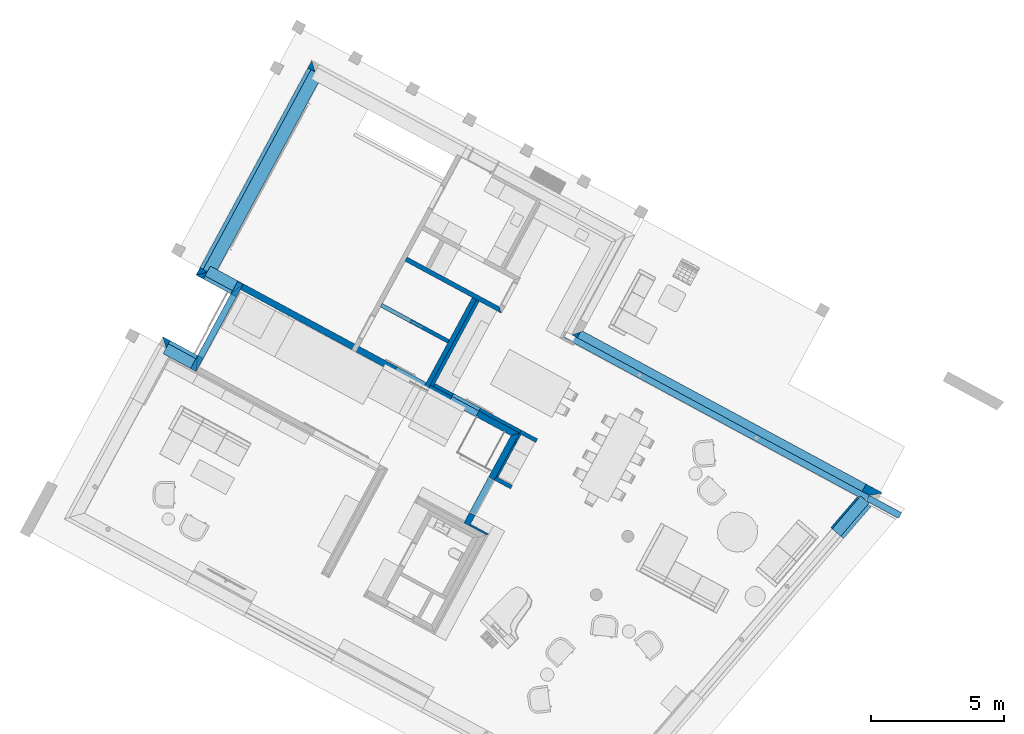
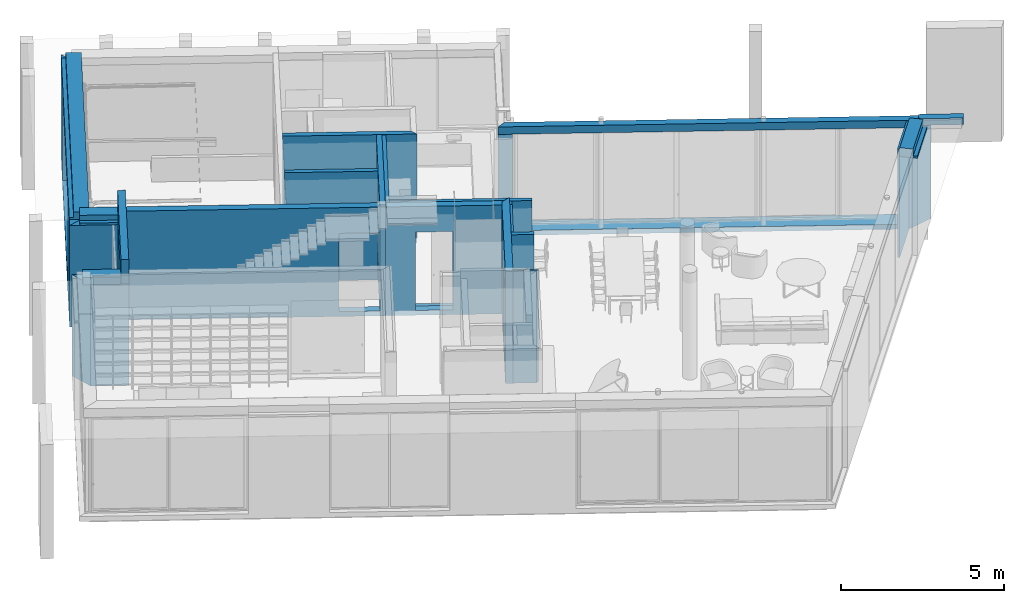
# One storey, part 3 of 36: 25 walls, 8 openings.
"""IFC2X3 building model written with IfcOpenShell, lengths in metres."""

from ifc_helpers import new_model, entity, si_unit, converted_unit, derived_unit, money_unit, direction, frame, frame_2d, origin_with_axes, origin_2d_with_axis, place, context, subcontext, project, spatial, polyline, rectangle, outline, composite_profile, extrude, faceted_brep, material, material_list, layer, layer_set, layer_usage, type_object, element, save


model = new_model("IFC2X3")

# Units and contexts
model_context = context("Model", 3, precision=1e-05, world=origin_with_axes(), true_north=direction((0.0, 1.0)))
body_context = subcontext(model_context, "Body", "Model", "MODEL_VIEW")
ifc_project = project(units=[si_unit("LENGTHUNIT", "METRE"), si_unit("AREAUNIT", "SQUARE_METRE"), si_unit("VOLUMEUNIT", "CUBIC_METRE"), converted_unit("PLANEANGLEUNIT", "DEGREE", entity("IfcPlaneAngleMeasure", 0.0174532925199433), si_unit("PLANEANGLEUNIT", "RADIAN"), dimensions=[0, 0, 0, 0, 0, 0, 0]), money_unit("EUR"), converted_unit("TIMEUNIT", "Year", entity("IfcTimeMeasure", 31556926.0), si_unit("TIMEUNIT", "SECOND"), dimensions=[0, 0, 1, 0, 0, 0, 0]), si_unit("MASSUNIT", "GRAM", prefix="KILO"), si_unit("THERMODYNAMICTEMPERATUREUNIT", "DEGREE_CELSIUS"), si_unit("LUMINOUSINTENSITYUNIT", "LUMEN"), si_unit("ENERGYUNIT", "JOULE", prefix="MEGA"), derived_unit("THERMALCONDUCTANCEUNIT", [(si_unit("POWERUNIT", "WATT"), 1), (si_unit("LENGTHUNIT", "METRE"), -1), (si_unit("THERMODYNAMICTEMPERATUREUNIT", "KELVIN"), -1)]), derived_unit("SPECIFICHEATCAPACITYUNIT", [(si_unit("ENERGYUNIT", "JOULE"), 1), (si_unit("MASSUNIT", "GRAM", prefix="KILO"), -1), (si_unit("THERMODYNAMICTEMPERATUREUNIT", "KELVIN"), -1)]), derived_unit("MASSDENSITYUNIT", [(si_unit("MASSUNIT", "GRAM", prefix="KILO"), 1), (si_unit("VOLUMEUNIT", "CUBIC_METRE"), -1)])], contexts=[model_context])

# Site, building, storey
site_placement = place(None, frame((-3.949935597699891, 1.740105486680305, 0.0), z_axis=(0.0, 0.0, 1.0), x_axis=(0.8799804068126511, -0.475009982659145, 0.0)))
site = spatial("IfcSite", under=ifc_project, at=site_placement, Name="Gelände", CompositionType="ELEMENT")
building_placement = place(site_placement, origin_with_axes())
building = spatial("IfcBuilding", under=site, at=building_placement, Name="Gebäude", CompositionType="ELEMENT")
storey_placement = place(building_placement, origin_with_axes())
storey = spatial("IfcBuildingStorey", under=building, at=storey_placement, Name="Erdgeschoss", CompositionType="ELEMENT", Elevation=0.0)

# Walls
ifc_material_1 = material(Name="_SIWH - MW Kalksandstein")
ifc_layer_1 = layer(ifc_material_1, 0.175, ventilated="UNKNOWN")
ifc_layer_set_1 = layer_set([ifc_layer_1], Name="_SIWH - WI | KS 17,5 | 17,5cm")
ifc_layer_usage_1 = layer_usage(ifc_layer_set_1, "AXIS2", "NEGATIVE", 0.0)
wall_type_1 = type_object("IfcWallType", Name="_SIWH - WI | KS 17,5 | 17,5cm 175", PredefinedType="NOTDEFINED")
wall_1_placement = place(storey_placement, frame((13.59247159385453, 14.53810341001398, -0.18), z_axis=(0.0, 0.0, 1.0), x_axis=(4.437408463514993e-06, -0.9999999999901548, 0.0)))
element("IfcWallStandardCase", 1, at=wall_1_placement, inside=storey, type_object=wall_type_1, material=ifc_layer_usage_1, Name="I-Wand029", ObjectType="NOTDEFINED", context=body_context, shape_type="SweptSolid", body=[
    extrude(outline(polyline([(0.0, -0.1750000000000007), (3.880302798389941, -0.1750000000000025), (3.880302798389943, 0.0), (0.0, 0.0), (0.0, -0.1750000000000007)])), origin_with_axes(), (0.0, 0.0, 1.0), 4.080000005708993),
])
ifc_layer_usage_2 = layer_usage(ifc_layer_set_1, "AXIS2", "POSITIVE", 0.0)
wall_2_placement = place(storey_placement, frame((10.53741421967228, 14.53808985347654, -0.18), z_axis=(0.0, 0.0, 1.0), x_axis=(0.9999999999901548, 4.437408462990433e-06, 0.0)))
element("IfcWallStandardCase", 2, at=wall_2_placement, inside=storey, type_object=wall_type_1, material=ifc_layer_usage_2, Name="I-Wand030", ObjectType="NOTDEFINED", context=body_context, shape_type="SweptSolid", body=[
    extrude(outline(polyline([(0.0, 0.0), (4.125546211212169, 0.0), (3.950546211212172, 0.1750000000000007), (5.735271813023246e-09, 0.1750000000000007), (0.0, 0.0)])), origin_with_axes(), (0.0, 0.0, 1.0), 4.080000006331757),
])
ifc_material_2 = material(Name="_SIWH - Beton, Stahlbeton")
ifc_layer_2 = layer(ifc_material_2, 0.24, ventilated="UNKNOWN")
ifc_layer_set_2 = layer_set([ifc_layer_2], Name="_SIWH - Beton, Stahlbeton 0.24")
ifc_layer_usage_3 = layer_usage(ifc_layer_set_2, "AXIS2", "NEGATIVE", 0.24)
wall_type_2 = type_object("IfcWallType", Name="_SIWH - Beton, Stahlbeton 240", PredefinedType="NOTDEFINED")
wall_3_placement = place(storey_placement, frame((30.10699423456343, 15.08304610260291, 3.620000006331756), z_axis=(0.0, 0.0, 1.0), x_axis=(-1.0, 0.0, 0.0)))
element("IfcWallStandardCase", 3, at=wall_3_placement, inside=storey, type_object=wall_type_2, material=ifc_layer_usage_3, Name="A-Wand052", ObjectType="NOTDEFINED", context=body_context, shape_type="SweptSolid", body=[
    extrude(outline(polyline([(0.0, 0.0), (12.73951727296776, 0.0), (12.93951727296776, 0.2400000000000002), (0.0, 0.2400000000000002), (0.0, 0.0)])), origin_with_axes(), (0.0, 0.0, 1.0), 0.28),
])
ifc_layer_usage_4 = layer_usage(ifc_layer_set_2, "AXIS2", "NEGATIVE", 0.24)
wall_4_placement = place(storey_placement, frame((31.48370260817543, 15.08304611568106, 3.7), z_axis=(0.0, 0.0, 1.0), x_axis=(-1.0, 0.0, 0.0)))
element("IfcWallStandardCase", 4, at=wall_4_placement, inside=storey, type_object=wall_type_2, material=ifc_layer_usage_4, Name="A-Wand053", ObjectType="NOTDEFINED", context=body_context, shape_type="SweptSolid", body=[
    extrude(outline(polyline([(0.0, 0.0), (1.376707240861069, 0.0), (1.376707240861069, 0.2400000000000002), (0.0, 0.2400000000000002), (0.0, 0.0)])), origin_with_axes(), (0.0, 0.0, 1.0), 0.25),
])

# Wall, opening
ifc_material_3 = material(Name="_SIWH - MW Vormauerziegel")
ifc_layer_3 = layer(ifc_material_3, 0.115, ventilated="UNKNOWN")
ifc_material_4 = material(Name="_SIWH - Luftschicht vertikal")
ifc_layer_4 = layer(ifc_material_4, 0.02, ventilated="UNKNOWN")
ifc_material_5 = material(Name="_SIWH - Dämmung, weich Mineralwolle")
ifc_layer_5 = layer(ifc_material_5, 0.18, ventilated="UNKNOWN")
ifc_layer_6 = layer(ifc_material_2, 0.24, ventilated="UNKNOWN")
ifc_layer_set_3 = layer_set([ifc_layer_3, ifc_layer_4, ifc_layer_5, ifc_layer_6], Name="_SIWH - WA | Stb. 24+WD 18+LS 2+Verblender 11,5 | 55,5cm")
ifc_layer_usage_5 = layer_usage(ifc_layer_set_3, "AXIS2", "POSITIVE", -0.315)
wall_type_3 = type_object("IfcWallType", Name="_SIWH - WA | Stb. 24+WD 18+LS 2+Verblender 11,5 | 55,5cm 555", PredefinedType="NOTDEFINED")
wall_5_placement = place(storey_placement, frame((30.10699655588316, 15.0830461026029, -0.1800000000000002), z_axis=(0.0, 0.0, 1.0), x_axis=(-1.0, 0.0, 0.0)))
wall_5 = element("IfcWallStandardCase", 5, at=wall_5_placement, inside=storey, type_object=wall_type_3, material=ifc_layer_usage_5, Name="A-Wand042", ObjectType="NOTDEFINED", context=body_context, shape_type="SweptSolid", body=[
    extrude(outline(polyline([(-0.3912241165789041, -0.3149999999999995), (12.42450377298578, -0.3149999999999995), (12.93950132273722, 0.2400000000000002), (0.2980755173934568, 0.2400000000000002), (-0.3912241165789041, -0.3149999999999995)])), origin_with_axes(), (0.0, 0.0, 1.0), 3.799999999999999),
])
opening_1_placement = place(wall_5_placement, frame((6.405607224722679, 0.0, 0.1800000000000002), z_axis=(0.0, 0.0, 1.0), x_axis=(1.0, 0.0, 0.0)))
element("IfcOpeningElement", 6, at=opening_1_placement, cuts=wall_5, Name="Fenster-014", context=body_context, shape_type="Brep", body=[
    faceted_brep([(6.088902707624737, 0.1250000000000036, 3.620000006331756), (-6.088902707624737, 0.1250000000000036, 3.620000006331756), (-6.088902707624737, -0.3160000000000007, 3.620000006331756), (6.017968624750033, -0.3159999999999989, 3.620000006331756), (6.088902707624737, -0.2395561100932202, 3.620000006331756), (6.088902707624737, 0.2410000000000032, 3.620000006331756), (-6.088902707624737, 0.2410000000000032, 3.620000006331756), (-6.088902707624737, 0.1250000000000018, 0.0), (-6.088902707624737, -0.3160000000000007, 0.0), (6.017968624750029, -0.3160000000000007, 0.0), (6.088902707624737, -0.2395561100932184, 0.0), (6.088902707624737, 0.1250000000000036, 0.0), (6.088902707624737, 0.2410000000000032, 0.0), (-6.088902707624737, 0.2410000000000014, 0.0)], [[[0, 1, 2, 3, 4]], [[1, 0, 5, 6]], [[1, 7, 8, 2]], [[2, 8, 9, 3]], [[3, 9, 10, 4]], [[11, 0, 4, 10]], [[0, 11, 12, 5]], [[5, 12, 13, 6]], [[7, 1, 6, 13]], [[7, 11, 10, 9, 8]], [[11, 7, 13, 12]]]),
])

# Walls
ifc_layer_usage_6 = layer_usage(ifc_layer_set_3, "AXIS2", "POSITIVE", -0.315)
wall_6_placement = place(storey_placement, frame((5.357481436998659, 7.393034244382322, -0.18), z_axis=(0.0, 0.0, 1.0), x_axis=(-1.0, 0.0, 0.0)))
element("IfcWallStandardCase", 7, at=wall_6_placement, inside=storey, type_object=wall_type_3, material=ifc_layer_usage_6, Name="A-Wand027", ObjectType="NOTDEFINED", context=body_context, shape_type="SweptSolid", body=[
    extrude(outline(polyline([(0.0, -0.3150000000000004), (1.489951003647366, -0.3150000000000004), (0.9349513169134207, 0.2399999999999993), (-0.2400000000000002, 0.2399999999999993), (0.0, -0.3150000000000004)])), origin_with_axes(), (0.0, 0.0, 1.0), 3.800000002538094),
])
ifc_layer_usage_7 = layer_usage(ifc_layer_set_3, "AXIS2", "POSITIVE", -0.315)
wall_7_placement = place(storey_placement, frame((4.182518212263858, 10.65780061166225, -0.1800000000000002), z_axis=(0.0, 0.0, 1.0), x_axis=(1.0, 0.0, 0.0)))
element("IfcWallStandardCase", 8, at=wall_7_placement, inside=storey, type_object=wall_type_3, material=ifc_layer_usage_7, Name="A-Wand004", ObjectType="NOTDEFINED", context=body_context, shape_type="SweptSolid", body=[
    extrude(outline(polyline([(-0.3149986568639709, -0.3150000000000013), (1.174963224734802, -0.3149999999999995), (1.414963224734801, 0.2400000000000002), (0.2999989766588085, 0.2400000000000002), (-0.3149986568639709, -0.3150000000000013)])), origin_with_axes(), (0.0, 0.0, 1.0), 3.800000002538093),
])
ifc_material_6 = material(Name="_SIWH - Gipskarton")
ifc_layer_7 = layer(ifc_material_6, 0.0125, ventilated="UNKNOWN")
ifc_layer_8 = layer(ifc_material_6, 0.0125, ventilated="UNKNOWN")
ifc_material_7 = material(Name="_SIWH - Installationswand, raumhoch")
ifc_layer_9 = layer(ifc_material_7, 0.05, ventilated="UNKNOWN")
ifc_layer_set_4 = layer_set([ifc_layer_7, ifc_layer_8, ifc_layer_9], Name="_SIWH - WI | Vorsatz-GK 2-lagig | 7,5cm")
ifc_layer_usage_8 = layer_usage(ifc_layer_set_4, "AXIS2", "POSITIVE", 0.0)
wall_type_4 = type_object("IfcWallType", Name="_SIWH - WI | Vorsatz-GK 2-lagig | 7,5cm  75", PredefinedType="PLUMBINGWALL")
wall_8_placement = place(storey_placement, frame((18.19650044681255, 7.003053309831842, -0.1800000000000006), z_axis=(0.0, 0.0, 1.0), x_axis=(-1.0, 0.0, 0.0)))
element("IfcWallStandardCase", 9, at=wall_8_placement, inside=storey, type_object=wall_type_4, material=ifc_layer_usage_8, Name="L-Wand006", ObjectType="PLUMBINGWALL", context=body_context, shape_type="SweptSolid", body=[
    extrude(outline(polyline([(0.0, 0.0), (0.7890121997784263, 0.0), (0.7890121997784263, 0.07500000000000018), (0.07499999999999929, 0.07500000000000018), (0.0, 0.0)])), origin_with_axes(), (0.0, 0.0, 1.0), 4.200000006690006),
])
ifc_layer_usage_9 = layer_usage(ifc_layer_set_4, "AXIS2", "NEGATIVE", 0.07500000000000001)
wall_9_placement = place(storey_placement, frame((17.40748824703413, 10.87285187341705, -0.1800000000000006), z_axis=(0.0, 0.0, 1.0), x_axis=(0.0, -1.0, 0.0)))
element("IfcWallStandardCase", 10, at=wall_9_placement, inside=storey, type_object=wall_type_4, material=ifc_layer_usage_9, Name="L-Wand012", ObjectType="PLUMBINGWALL", context=body_context, shape_type="SweptSolid", body=[
    extrude(outline(polyline([(0.0, 0.0), (0.3550512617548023, 0.0), (0.3550512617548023, 0.07499999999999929), (0.0, 0.07499999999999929), (0.0, 0.0)])), origin_with_axes(), (0.0, 0.0, 1.0), 4.080000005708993),
])
ifc_layer_usage_10 = layer_usage(ifc_layer_set_4, "AXIS2", "NEGATIVE", 0.07500000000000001)
wall_10_placement = place(storey_placement, frame((29.47428625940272, 13.31089260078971, -0.1799999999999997), z_axis=(0.0, 0.0, 1.0), x_axis=(0.2133768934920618, 0.9769699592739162, 0.0)))
element("IfcWallStandardCase", 11, at=wall_10_placement, inside=storey, type_object=wall_type_4, material=ifc_layer_usage_10, Name="L-Wand016", ObjectType="PLUMBINGWALL", context=body_context, shape_type="SweptSolid", body=[
    extrude(outline(polyline([(0.0, 0.0), (1.532777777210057, 0.0), (1.532777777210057, 0.07499999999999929), (0.0, 0.07500000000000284), (0.0, 0.0)])), origin_with_axes(), (0.0, 0.0, 1.0), 4.080000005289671),
])
ifc_layer_usage_11 = layer_usage(ifc_layer_set_4, "AXIS2", "NEGATIVE", 0.07500000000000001)
wall_11_placement = place(storey_placement, frame((17.40748824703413, 10.51780061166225, -0.1800000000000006), z_axis=(0.0, 0.0, 1.0), x_axis=(0.0, -1.0, 0.0)))
element("IfcWallStandardCase", 12, at=wall_11_placement, inside=storey, type_object=wall_type_4, material=ifc_layer_usage_11, Name="L-Wand017", ObjectType="PLUMBINGWALL", context=body_context, shape_type="SweptSolid", body=[
    extrude(outline(polyline([(0.0, 0.0), (1.483958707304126, 0.0), (1.483958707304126, 0.07499999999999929), (0.0, 0.07499999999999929), (0.0, 0.0)])), origin_with_axes(), (0.0, 0.0, 1.0), 4.200000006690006),
])
ifc_material_list = material_list([ifc_material_5, ifc_material_2, ifc_material_3, ifc_material_4])
wall_type_5 = type_object("IfcWallType", Name="_SIWH - Sturz Außenwand EG 555 x 330", PredefinedType="NOTDEFINED")
wall_12_placement = place(storey_placement, frame((30.0569664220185, 14.85397262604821, 3.619999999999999), z_axis=(0.0, 0.0, 1.0), x_axis=(-0.2133789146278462, -0.976969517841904, 0.0)))
element("IfcWall", 13, at=wall_12_placement, inside=storey, type_object=wall_type_5, material=ifc_material_list, Name="A-Wand041", ObjectType="NOTDEFINED", context=body_context, shape_type="SweptSolid", body=[
    extrude(composite_profile([outline(polyline([(0.1799999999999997, 0.3300000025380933), (3.224471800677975e-10, 0.3300000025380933), (3.224471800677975e-10, 0.0), (0.1799999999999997, 0.0), (0.1800000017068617, 0.08000000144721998), (0.1799999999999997, 0.3300000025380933)])), outline(polyline([(-0.2400000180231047, 0.33), (-0.2400000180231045, 0.0), (0.0, 0.0), (0.0, 0.33), (-0.2400000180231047, 0.33)])), outline(polyline([(0.1999999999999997, 0.08000000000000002), (0.1999999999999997, 0.0), (0.3149999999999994, 0.0), (0.3149999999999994, 0.08000000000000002), (0.1999999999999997, 0.08000000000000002)])), outline(polyline([(0.1800000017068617, 0.0), (0.2000000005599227, 0.0), (0.2000000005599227, 0.07999999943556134), (0.1800000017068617, 0.08000000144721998), (0.1800000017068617, 0.0)]))]), frame((0.0, 0.0, 0.0), z_axis=(1.0, 0.0, 0.0), x_axis=(0.0, 1.0, 0.0)), (0.0, 0.0, 1.0), 1.631873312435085),
])
ifc_layer_10 = layer(ifc_material_6, 0.0125, ventilated="UNKNOWN")
ifc_layer_11 = layer(ifc_material_6, 0.0125, ventilated="UNKNOWN")
ifc_layer_12 = layer(ifc_material_7, 0.1, ventilated="UNKNOWN")
ifc_layer_13 = layer(ifc_material_6, 0.0125, ventilated="UNKNOWN")
ifc_layer_14 = layer(ifc_material_6, 0.0125, ventilated="UNKNOWN")
ifc_layer_set_5 = layer_set([ifc_layer_10, ifc_layer_11, ifc_layer_12, ifc_layer_13, ifc_layer_14], Name="_SIWH - WI | Vorsatz-GK 2-lagig | 15cm")
ifc_layer_usage_12 = layer_usage(ifc_layer_set_5, "AXIS2", "POSITIVE", 0.0)
wall_type_6 = type_object("IfcWallType", Name="_SIWH - WI | Vorsatz-GK 2-lagig | 15cm 150", PredefinedType="PLUMBINGWALL")
wall_13_placement = place(storey_placement, frame((17.40748824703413, 8.883838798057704, -0.1799999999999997), z_axis=(0.0, 0.0, 1.0), x_axis=(0.9999999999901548, 4.437408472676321e-06, 0.0)))
element("IfcWallStandardCase", 14, at=wall_13_placement, inside=storey, type_object=wall_type_6, material=ifc_layer_usage_12, Name="L-Wand019", ObjectType="PLUMBINGWALL", context=body_context, shape_type="SweptSolid", body=[
    extrude(outline(polyline([(0.0, 0.0), (0.7000261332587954, 0.0), (0.7000261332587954, 0.1500000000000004), (6.656112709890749e-07, 0.1500000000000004), (0.0, 0.0)])), origin_with_axes(), (0.0, 0.0, 1.0), 4.200000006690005),
])
ifc_layer_usage_13 = layer_usage(ifc_layer_set_5, "AXIS2", "NEGATIVE", 0.0)
wall_14_placement = place(storey_placement, frame((17.40748824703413, 11.02285187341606, -0.1799999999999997), z_axis=(0.0, 0.0, 1.0), x_axis=(0.9999999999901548, 4.437408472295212e-06, 0.0)))
element("IfcWallStandardCase", 15, at=wall_14_placement, inside=storey, type_object=wall_type_6, material=ifc_layer_usage_13, Name="L-Wand018", ObjectType="PLUMBINGWALL", context=body_context, shape_type="SweptSolid", body=[
    extrude(outline(polyline([(0.0, -0.1500000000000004), (0.7000173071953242, -0.1500000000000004), (0.7000173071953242, 0.0), (0.0, 0.0), (0.0, -0.1500000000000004)])), origin_with_axes(), (0.0, 0.0, 1.0), 4.080000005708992),
])

# Wall, openings
ifc_layer_15 = layer(ifc_material_2, 0.24, ventilated="UNKNOWN")
ifc_layer_set_6 = layer_set([ifc_layer_15], Name="_SIWH - WI | Stb. 24 | 24cm")
ifc_layer_usage_14 = layer_usage(ifc_layer_set_6, "AXIS2", "NEGATIVE", 0.0)
wall_type_7 = type_object("IfcWallType", Name="_SIWH - WI | Stb. 24 | 24cm 240", PredefinedType="NOTDEFINED")
wall_15_placement = place(storey_placement, frame((5.59748143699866, 10.89780061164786, -0.18), z_axis=(0.0, 0.0, 1.0), x_axis=(0.9999999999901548, 4.437408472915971e-06, 0.0)))
wall_15 = element("IfcWallStandardCase", 16, at=wall_15_placement, inside=storey, type_object=wall_type_7, material=ifc_layer_usage_14, Name="I-Wand005", ObjectType="NOTDEFINED", context=body_context, shape_type="SweptSolid", body=[
    extrude(outline(polyline([(0.0, -0.240000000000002), (11.57000574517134, -0.240000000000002), (11.81000681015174, 0.0), (0.0, 0.0), (0.0, -0.240000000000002)])), origin_with_axes(), (0.0, 0.0, 1.0), 4.080000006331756),
])
opening_2_placement = place(wall_15_placement, frame((7.190006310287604, 0.0, 0.18), z_axis=(0.0, 0.0, 1.0), x_axis=(1.0, 0.0, 0.0)))
element("IfcOpeningElement", 17, at=opening_2_placement, cuts=wall_15, Name="I-Wand061", context=body_context, shape_type="SweptSolid", body=[
    extrude(rectangle(XDim=1.260000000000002, YDim=2.94, at=origin_2d_with_axis()), frame((1.153655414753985e-06, 0.01996809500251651, 1.47), z_axis=(4.437408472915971e-06, 0.9999999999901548, 0.0), x_axis=(0.9999999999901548, -4.437408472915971e-06, 0.0)), (0.0, 0.0, -1.0), 0.5),
    extrude(rectangle(XDim=1.260000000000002, YDim=2.94, at=origin_2d_with_axis()), frame((1.153655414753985e-06, 0.01996809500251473, 1.47), z_axis=(-4.437408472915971e-06, -0.9999999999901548, 0.0), x_axis=(0.9999999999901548, -4.437408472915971e-06, 0.0)), (0.0, 0.0, -1.0), 0.26),
])
opening_3_placement = place(wall_15_placement, frame((9.495005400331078, 0.0, 0.18), z_axis=(0.0, 0.0, 1.0), x_axis=(1.0, 0.0, 0.0)))
element("IfcOpeningElement", 18, at=opening_3_placement, cuts=wall_15, Name="I-Wand062", context=body_context, shape_type="SweptSolid", body=[
    extrude(rectangle(XDim=1.149999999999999, YDim=2.94, at=origin_2d_with_axis()), frame((0.0, -0.2400000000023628, 1.47), z_axis=(-4.437408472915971e-06, -0.9999999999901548, 0.0), x_axis=(-0.9999999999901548, 4.437408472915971e-06, 0.0)), (0.0, 0.0, -1.0), 0.895),
])

# Wall, opening
ifc_layer_usage_15 = layer_usage(ifc_layer_set_6, "AXIS2", "POSITIVE", 0.0)
wall_16_placement = place(storey_placement, frame((5.357481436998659, 10.65780061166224, -0.1800000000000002), z_axis=(0.0, 0.0, 1.0), x_axis=(0.0, -1.0, 0.0)))
wall_16 = element("IfcWallStandardCase", 19, at=wall_16_placement, inside=storey, type_object=wall_type_7, material=ifc_layer_usage_15, Name="A-Wand006", ObjectType="NOTDEFINED", context=body_context, shape_type="SweptSolid", body=[
    extrude(outline(polyline([(0.3149999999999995, 0.0), (2.949766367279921, 0.0), (3.504766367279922, 0.2400000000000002), (-0.2400000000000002, 0.2400000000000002), (0.3149999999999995, 0.0)])), origin_with_axes(), (0.0, 0.0, 1.0), 3.800000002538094),
])
opening_4_placement = place(wall_16_placement, frame((1.632383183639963, 0.0, 0.1800000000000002), z_axis=(0.0, 0.0, 1.0), x_axis=(1.0, 0.0, 0.0)))
element("IfcOpeningElement", 20, at=opening_4_placement, cuts=wall_16, Name="Tür-018", context=body_context, shape_type="SweptSolid", body=[
    extrude(rectangle(XDim=2.634766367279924, YDim=3.62, at=origin_2d_with_axis()), frame((0.0, 0.2400000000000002, 1.81), z_axis=(0.0, -1.0, 0.0), x_axis=(1.0, 0.0, 0.0)), (0.0, 0.0, 1.0), 0.8999999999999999),
])

ifc_layer_usage_16 = layer_usage(ifc_layer_set_6, "AXIS2", "NEGATIVE", 0.0)
wall_17_placement = place(storey_placement, frame((17.40748824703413, 10.89785301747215, -0.18), z_axis=(0.0, 0.0, 1.0), x_axis=(0.0, -1.0, 0.0)))
wall_17 = element("IfcWallStandardCase", 21, at=wall_17_placement, inside=storey, type_object=wall_type_7, material=ifc_layer_usage_16, Name="I-Wand006", ObjectType="NOTDEFINED", context=body_context, shape_type="SweptSolid", body=[
    extrude(outline(polyline([(0.2400010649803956, -0.2399999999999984), (3.969799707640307, -0.2399999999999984), (3.969799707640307, 0.0), (0.0, 0.0), (0.2400010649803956, -0.2399999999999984)])), origin_with_axes(), (0.0, 0.0, 1.0), 4.200000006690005),
])
opening_5_placement = place(wall_17_placement, frame((2.769014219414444, 0.0, 0.18), z_axis=(0.0, 0.0, 1.0), x_axis=(1.0, 0.0, 0.0)))
element("IfcOpeningElement", 22, at=opening_5_placement, cuts=wall_17, Name="I-Wand058", context=body_context, shape_type="SweptSolid", body=[
    extrude(rectangle(XDim=1.510000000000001, YDim=2.98, at=origin_2d_with_axis()), frame((0.0, 0.2399999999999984, 1.49), z_axis=(0.0, -1.0, 0.0), x_axis=(1.0, 0.0, 0.0)), (0.0, 0.0, 1.0), 0.72),
])

ifc_layer_16 = layer(ifc_material_3, 0.115, ventilated="UNKNOWN")
ifc_layer_17 = layer(ifc_material_4, 0.02, ventilated="UNKNOWN")
ifc_layer_18 = layer(ifc_material_5, 0.18, ventilated="UNKNOWN")
ifc_layer_19 = layer(ifc_material_2, 0.3, ventilated="UNKNOWN")
ifc_layer_set_7 = layer_set([ifc_layer_16, ifc_layer_17, ifc_layer_18, ifc_layer_19], Name="_SIWH - WA | Stb. 30+WD 18+LS 2+Verblender 11,5 | 61,5")
ifc_layer_usage_17 = layer_usage(ifc_layer_set_7, "AXIS2", "POSITIVE", -0.315)
wall_type_8 = type_object("IfcWallType", Name="_SIWH - WA | Stb. 30+WD 18+LS 2+Verblender 11,5 | 61,5 615", PredefinedType="NOTDEFINED")
wall_18_placement = place(storey_placement, frame((4.182481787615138, 19.2003008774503, -0.1800000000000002), z_axis=(0.0, 0.0, 1.0), x_axis=(4.263932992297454e-06, -0.9999999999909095, 0.0)))
wall_18 = element("IfcWallStandardCase", 23, at=wall_18_placement, inside=storey, type_object=wall_type_8, material=ifc_layer_usage_17, Name="A-Wand023", ObjectType="NOTDEFINED", context=body_context, shape_type="SweptSolid", body=[
    extrude(outline(polyline([(-0.315001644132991, -0.3149999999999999), (8.857498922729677, -0.3149999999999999), (8.302501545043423, 0.3000000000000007), (0.3000015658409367, 0.2999999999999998), (-0.315001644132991, -0.3149999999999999)])), origin_with_axes(), (0.0, 0.0, 1.0), 3.800000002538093),
])
opening_6_placement = place(wall_18_placement, frame((4.271248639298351, 0.0, 0.1800000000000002), z_axis=(0.0, 0.0, 1.0), x_axis=(1.0, 0.0, 0.0)))
element("IfcOpeningElement", 24, at=opening_6_placement, cuts=wall_18, Name="Tür-016", context=body_context, shape_type="SweptSolid", body=[
    extrude(rectangle(XDim=6.0, YDim=3.375, at=origin_2d_with_axis()), frame((0.0, 0.6150000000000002, 1.6875), z_axis=(0.0, -1.0, 0.0), x_axis=(1.0, 0.0, 0.0)), (0.0, 0.0, 1.0), 1.845),
])

ifc_layer_20 = layer(ifc_material_6, 0.0125, ventilated="UNKNOWN")
ifc_layer_21 = layer(ifc_material_6, 0.0125, ventilated="UNKNOWN")
ifc_layer_22 = layer(ifc_material_5, 0.1, ventilated="UNKNOWN")
ifc_layer_23 = layer(ifc_material_6, 0.0125, ventilated="UNKNOWN")
ifc_layer_24 = layer(ifc_material_6, 0.0125, ventilated="UNKNOWN")
ifc_layer_set_8 = layer_set([ifc_layer_20, ifc_layer_21, ifc_layer_22, ifc_layer_23, ifc_layer_24], Name="_SIWH - WI | GK 2-lagig | 15cm")
ifc_layer_usage_18 = layer_usage(ifc_layer_set_8, "AXIS2", "NEGATIVE", 0.0)
wall_type_9 = type_object("IfcWallType", Name="_SIWH - WI | GK 2-lagig | 15cm 150", PredefinedType="NOTDEFINED")
wall_19_placement = place(storey_placement, frame((13.41748027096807, 12.58265681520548, -0.18), z_axis=(0.0, 0.0, 1.0), x_axis=(-0.9999999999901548, -4.437408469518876e-06, 0.0)))
wall_19 = element("IfcWallStandardCase", 25, at=wall_19_placement, inside=storey, type_object=wall_type_9, material=ifc_layer_usage_18, Name="I-Wand042", ObjectType="NOTDEFINED", context=body_context, shape_type="SweptSolid", body=[
    extrude(outline(polyline([(0.0, -0.1499999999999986), (2.880057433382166, -0.1499999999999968), (2.880057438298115, 0.0), (0.0, 0.0), (0.0, -0.1499999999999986)])), origin_with_axes(), (0.0, 0.0, 1.0), 4.080000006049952),
])
opening_7_placement = place(wall_19_placement, frame((2.250057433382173, 0.0, 0.18), z_axis=(0.0, 0.0, 1.0), x_axis=(1.0, 0.0, 0.0)))
element("IfcOpeningElement", 26, at=opening_7_placement, cuts=wall_19, Name="I-Wand060", context=body_context, shape_type="SweptSolid", body=[
    extrude(rectangle(XDim=1.26, YDim=2.26, at=origin_2d_with_axis()), frame((0.0, -0.08999999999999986, 1.13), z_axis=(0.0, -1.0, 0.0), x_axis=(1.0, 0.0, 0.0)), (0.0, 0.0, -1.0), 0.24),
    extrude(rectangle(XDim=1.260000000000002, YDim=2.26, at=origin_2d_with_axis()), frame((0.0, -0.08999999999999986, 1.13), z_axis=(0.0, 1.0, 0.0), x_axis=(1.0, 0.0, 0.0)), (0.0, 0.0, -1.0), 0.21),
])

# Walls
wall_type_10 = type_object("IfcWallType", Name="_SIWH - Sturz Außenwand EG Garage 615 x 280", PredefinedType="NOTDEFINED")
wall_20_placement = place(storey_placement, frame((4.182518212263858, 10.65780061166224, 3.900000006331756), z_axis=(0.0, 0.0, 1.0), x_axis=(-4.263932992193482e-06, 0.9999999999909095, 0.0)))
element("IfcWall", 27, at=wall_20_placement, inside=storey, type_object=wall_type_10, material=ifc_material_list, Name="A-Wand018", ObjectType="NOTDEFINED", context=body_context, shape_type="SweptSolid", body=[
    extrude(composite_profile([outline(polyline([(0.1799999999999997, 0.0), (0.0, 0.0), (0.0, -0.28), (0.1799999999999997, -0.28), (0.1799999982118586, -0.1999999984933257), (0.1799999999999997, 0.0)])), outline(polyline([(-0.2999999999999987, 0.0), (-0.2999999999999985, -0.28), (0.0, -0.28), (0.0, 0.0), (-0.2999999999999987, 0.0)])), outline(polyline([(0.1999999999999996, -0.2), (0.1999999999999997, -0.28), (0.3149999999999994, -0.28), (0.3149999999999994, -0.2), (0.1999999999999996, -0.2)])), outline(polyline([(0.1799999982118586, -0.28), (0.1999999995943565, -0.28), (0.1999999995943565, -0.2000000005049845), (0.1799999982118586, -0.1999999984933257), (0.1799999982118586, -0.28)]))]), frame((0.0, 0.0, 0.0), z_axis=(1.0, 0.0, 0.0), x_axis=(0.0, 1.0, 0.0)), (0.0, 0.0, 1.0), 8.542500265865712),
])
ifc_layer_25 = layer(ifc_material_6, 0.0125, ventilated="UNKNOWN")
ifc_layer_26 = layer(ifc_material_6, 0.0125, ventilated="UNKNOWN")
ifc_layer_27 = layer(ifc_material_7, 0.1, ventilated="UNKNOWN")
ifc_layer_set_9 = layer_set([ifc_layer_25, ifc_layer_26, ifc_layer_27], Name="_SIWH - WI | Vorsatz-GK 2-lagig | 12,5cm")
ifc_layer_usage_19 = layer_usage(ifc_layer_set_9, "AXIS2", "POSITIVE", -0.125)
wall_type_11 = type_object("IfcWallType", Name="_SIWH - WI | Vorsatz-GK 2-lagig | 12,5cm 125", PredefinedType="PLUMBINGWALL")
wall_21_placement = place(storey_placement, frame((13.59248774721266, 10.89783494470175, -0.3200000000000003), z_axis=(0.0, 0.0, 1.0), x_axis=(-4.437408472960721e-06, 0.9999999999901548, 0.0)))
element("IfcWallStandardCase", 28, at=wall_21_placement, inside=storey, type_object=wall_type_11, material=ifc_layer_usage_19, Name="L-Wand010", ObjectType="PLUMBINGWALL", context=body_context, shape_type="SweptSolid", body=[
    extrude(outline(polyline([(1.144054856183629e-06, -0.1250000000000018), (3.640268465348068, -0.1250000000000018), (3.640268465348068, 0.0), (1.144054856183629e-06, 0.0), (1.144054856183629e-06, -0.1250000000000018)])), origin_with_axes(), (0.0, 0.0, 1.0), 4.2),
])

# Wall, opening
ifc_layer_usage_20 = layer_usage(ifc_layer_set_9, "AXIS2", "NEGATIVE", 0.0)
wall_22_placement = place(storey_placement, frame((13.5924871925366, 11.02283494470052, -0.1799999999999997), z_axis=(0.0, 0.0, 1.0), x_axis=(0.9999999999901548, 4.437408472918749e-06, 0.0)))
wall_22 = element("IfcWallStandardCase", 29, at=wall_22_placement, inside=storey, type_object=wall_type_11, material=ifc_layer_usage_20, Name="L-Wand011", ObjectType="PLUMBINGWALL", context=body_context, shape_type="SweptSolid", body=[
    extrude(outline(polyline([(0.1249999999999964, -0.125), (3.81500049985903, -0.125), (3.81500049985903, 0.0), (0.1249999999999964, 0.0), (0.1249999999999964, -0.125)])), origin_with_axes(), (0.0, 0.0, 1.0), 4.080000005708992),
])
opening_8_placement = place(wall_22_placement, frame((1.499999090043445, 0.0, 0.1799999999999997), z_axis=(0.0, 0.0, 1.0), x_axis=(1.0, 0.0, 0.0)))
element("IfcOpeningElement", 30, at=opening_8_placement, cuts=wall_22, Name="Tür-025", context=body_context, shape_type="SweptSolid", body=[
    extrude(rectangle(XDim=1.149999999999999, YDim=2.94, at=origin_2d_with_axis()), frame((4.437260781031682e-07, -0.02500665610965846, 1.47), z_axis=(-4.437408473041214e-06, -0.9999999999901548, 0.0), x_axis=(0.9999999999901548, -4.437408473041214e-06, 0.0)), (0.0, 0.0, 1.0), 0.225),
    extrude(rectangle(XDim=1.149999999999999, YDim=2.94, at=origin_2d_with_axis()), frame((4.437260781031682e-07, -0.02500665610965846, 1.47), z_axis=(4.437408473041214e-06, 0.9999999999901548, 0.0), x_axis=(0.9999999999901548, -4.437408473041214e-06, 0.0)), (0.0, 0.0, 1.0), 0.15),
])

# Walls
wall_type_12 = type_object("IfcWallType", Name="_SIWH - Sturz Außenwand EG Vordach 555 x 280", PredefinedType="NOTDEFINED")
wall_23_placement = place(storey_placement, frame((5.35748240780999, 7.393034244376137, 3.620000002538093), z_axis=(0.0, 0.0, 1.0), x_axis=(-1.0, 0.0, 0.0)))
element("IfcWall", 31, at=wall_23_placement, inside=storey, type_object=wall_type_12, material=ifc_material_list, Name="A-Wand022", ObjectType="NOTDEFINED", context=body_context, shape_type="SweptSolid", body=[
    extrude(composite_profile([outline(polyline([(0.1799999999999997, 0.279999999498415), (3.224472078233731e-10, 0.279999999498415), (3.224472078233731e-10, 0.0), (0.1799999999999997, 0.0), (0.1799999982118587, 0.07999999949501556), (0.1799999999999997, 0.279999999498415)])), outline(polyline([(-0.2400000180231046, 0.28), (-0.2400000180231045, 0.0), (0.0, 0.0), (0.0, 0.28), (-0.2400000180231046, 0.28)])), outline(polyline([(0.1999999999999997, 0.08000000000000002), (0.1999999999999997, 0.0), (0.3149999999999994, 0.0), (0.3149999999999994, 0.08000000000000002), (0.1999999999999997, 0.08000000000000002)])), outline(polyline([(0.1799999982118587, 0.0), (0.1999999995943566, 0.0), (0.1999999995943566, 0.07999999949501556), (0.1799999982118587, 0.07999999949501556), (0.1799999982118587, 0.0)]))]), frame((0.0, 0.0, 0.0), z_axis=(-1.0, 0.0, 0.0), x_axis=(0.0, -1.0, 0.0)), (0.0, 0.0, -1.0), 1.174951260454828),
])
wall_24_placement = place(storey_placement, frame((5.357481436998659, 10.65780061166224, 3.620000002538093), z_axis=(0.0, 0.0, 1.0), x_axis=(-1.0, 0.0, 0.0)))
element("IfcWall", 32, at=wall_24_placement, inside=storey, type_object=wall_type_12, material=ifc_material_list, Name="A-Wand017", ObjectType="NOTDEFINED", context=body_context, shape_type="SweptSolid", body=[
    extrude(composite_profile([outline(polyline([(0.1799999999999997, 0.279999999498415), (3.224472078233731e-10, 0.279999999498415), (3.224472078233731e-10, 0.0), (0.1799999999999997, 0.0), (0.1799999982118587, 0.07999999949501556), (0.1799999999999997, 0.279999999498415)])), outline(polyline([(-0.2400000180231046, 0.28), (-0.2400000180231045, 0.0), (0.0, 0.0), (0.0, 0.28), (-0.2400000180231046, 0.28)])), outline(polyline([(0.1999999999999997, 0.08000000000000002), (0.1999999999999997, 0.0), (0.3149999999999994, 0.0), (0.3149999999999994, 0.08000000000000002), (0.1999999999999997, 0.08000000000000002)])), outline(polyline([(0.1799999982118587, 0.0), (0.1999999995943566, 0.0), (0.1999999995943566, 0.07999999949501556), (0.1799999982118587, 0.07999999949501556), (0.1799999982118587, 0.0)]))]), frame((0.0, 0.0, 0.0), z_axis=(1.0, 0.0, 0.0), x_axis=(0.0, 1.0, 0.0)), (0.0, 0.0, 1.0), 1.174963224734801),
])
wall_type_13 = type_object("IfcWallType", Name="_SIWH - Beton, Stahlbeton 240 x 930", PredefinedType="NOTDEFINED")
wall_25_placement = place(storey_placement, frame((5.47748143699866, 7.153034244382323, 4.550000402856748), z_axis=(0.0, 0.0, 1.0), x_axis=(1.0, 0.0, 0.0)))
element("IfcWall", 33, at=wall_25_placement, inside=storey, type_object=wall_type_13, material=ifc_material_2, Name="Unterzug-014", ObjectType="NOTDEFINED", context=body_context, shape_type="SweptSolid", body=[
    extrude(rectangle(XDim=0.9300006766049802, YDim=0.24, at=frame_2d((-0.4650003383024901, 0.0), x_axis=(1.0, 0.0))), frame((0.0, 0.0, 0.0), z_axis=(0.0, 1.0, 0.0), x_axis=(0.0, 0.0, 1.0)), (0.0, 0.0, 1.0), 3.704766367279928),
])

save(model, "model.ifc")
